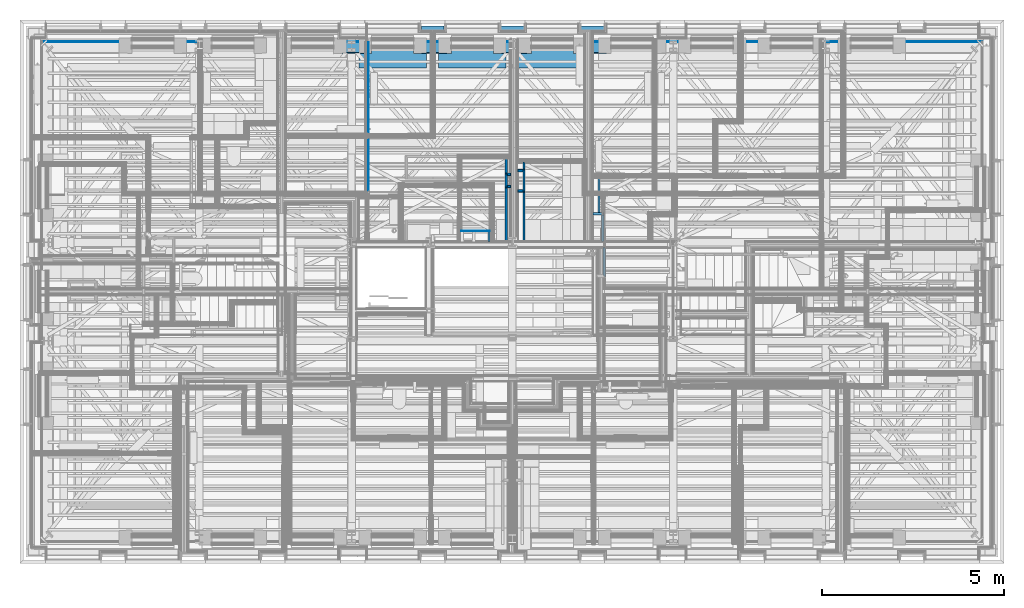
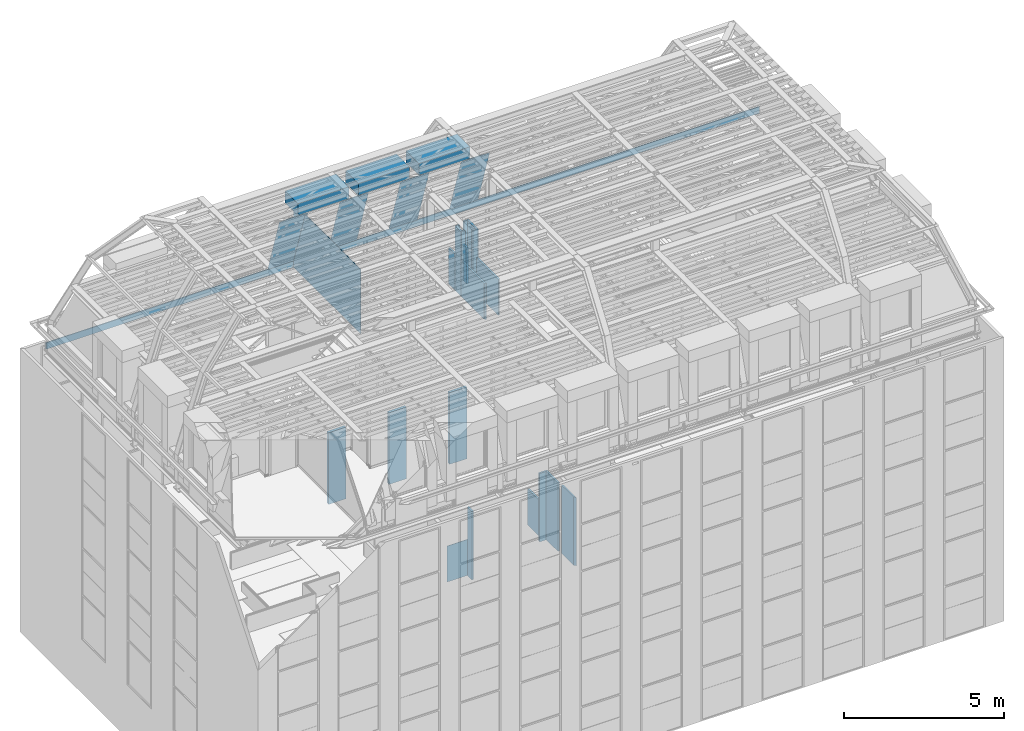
# One storey, part 17 of 183: 33 walls.
"""IFC2X3 building model written with IfcOpenShell, lengths in metres."""

from ifc_helpers import new_model, entity, si_unit, converted_unit, derived_unit, money_unit, direction, frame, frame_2d, origin_with_axes, place, context, subcontext, project, spatial, polyline, rectangle, outline, extrude, material, layer, layer_set, layer_usage, type_object, element, save


model = new_model("IFC2X3")

# Units and contexts
model_context = context("Model", 3, precision=1e-05, world=origin_with_axes(), true_north=direction((0.0, 1.0)))
body_context = subcontext(model_context, "Body", "Model", "MODEL_VIEW", scale=1.0)
ifc_project = project(units=[si_unit("LENGTHUNIT", "METRE"), si_unit("AREAUNIT", "SQUARE_METRE"), si_unit("VOLUMEUNIT", "CUBIC_METRE"), si_unit("ABSORBEDDOSEUNIT", "GRAY"), si_unit("AMOUNTOFSUBSTANCEUNIT", "MOLE"), si_unit("DOSEEQUIVALENTUNIT", "SIEVERT"), si_unit("ELECTRICCAPACITANCEUNIT", "FARAD"), si_unit("ELECTRICCHARGEUNIT", "COULOMB"), si_unit("ELECTRICCONDUCTANCEUNIT", "SIEMENS"), si_unit("ELECTRICCURRENTUNIT", "AMPERE"), si_unit("ELECTRICRESISTANCEUNIT", "OHM"), si_unit("ELECTRICVOLTAGEUNIT", "VOLT"), si_unit("ENERGYUNIT", "JOULE"), si_unit("FORCEUNIT", "NEWTON"), si_unit("FREQUENCYUNIT", "HERTZ"), si_unit("ILLUMINANCEUNIT", "LUX"), si_unit("INDUCTANCEUNIT", "HENRY"), si_unit("LUMINOUSFLUXUNIT", "LUMEN"), si_unit("LUMINOUSINTENSITYUNIT", "CANDELA"), si_unit("MAGNETICFLUXDENSITYUNIT", "TESLA"), si_unit("MAGNETICFLUXUNIT", "WEBER"), si_unit("MASSUNIT", "GRAM"), converted_unit("PLANEANGLEUNIT", "degree", entity("IfcReal", 0.0174532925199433), si_unit("PLANEANGLEUNIT", "RADIAN"), dimensions=[0, 0, 0, 0, 0, 0, 0]), si_unit("POWERUNIT", "WATT"), si_unit("PRESSUREUNIT", "PASCAL"), si_unit("RADIOACTIVITYUNIT", "BECQUEREL"), si_unit("SOLIDANGLEUNIT", "STERADIAN"), si_unit("THERMODYNAMICTEMPERATUREUNIT", "KELVIN"), si_unit("TIMEUNIT", "SECOND"), derived_unit("ACCELERATIONUNIT", [(si_unit("LENGTHUNIT", "METRE"), 1), (si_unit("TIMEUNIT", "SECOND"), -2)]), derived_unit("ANGULARVELOCITYUNIT", [(converted_unit("PLANEANGLEUNIT", "degree", entity("IfcReal", 0.0174532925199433), si_unit("PLANEANGLEUNIT", "RADIAN"), dimensions=[0, 0, 0, 0, 0, 0, 0]), 1), (si_unit("TIMEUNIT", "SECOND"), -1)]), derived_unit("CURVATUREUNIT", [(converted_unit("PLANEANGLEUNIT", "degree", entity("IfcReal", 0.0174532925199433), si_unit("PLANEANGLEUNIT", "RADIAN"), dimensions=[0, 0, 0, 0, 0, 0, 0]), 1), (si_unit("LENGTHUNIT", "METRE"), -1)]), derived_unit("DYNAMICVISCOSITYUNIT", [(si_unit("PRESSUREUNIT", "PASCAL"), 1), (si_unit("TIMEUNIT", "SECOND"), 1)]), derived_unit("HEATFLUXDENSITYUNIT", [(si_unit("POWERUNIT", "WATT"), 1), (si_unit("LENGTHUNIT", "METRE"), -2)]), derived_unit("HEATINGVALUEUNIT", [(si_unit("ENERGYUNIT", "JOULE"), 1), (si_unit("MASSUNIT", "GRAM"), -1)]), derived_unit("INTEGERCOUNTRATEUNIT", [(si_unit("TIMEUNIT", "SECOND"), -1)]), derived_unit("IONCONCENTRATIONUNIT", [(si_unit("MASSUNIT", "GRAM"), 1), (si_unit("VOLUMEUNIT", "CUBIC_METRE"), -1)]), derived_unit("ISOTHERMALMOISTURECAPACITYUNIT", [(si_unit("VOLUMEUNIT", "CUBIC_METRE"), 1), (si_unit("MASSUNIT", "GRAM"), -1)]), derived_unit("KINEMATICVISCOSITYUNIT", [(si_unit("AREAUNIT", "SQUARE_METRE"), 1), (si_unit("TIMEUNIT", "SECOND"), -1)]), derived_unit("LINEARFORCEUNIT", [(si_unit("FORCEUNIT", "NEWTON"), 1), (si_unit("LENGTHUNIT", "METRE"), -1)]), derived_unit("LINEARMOMENTUNIT", [(si_unit("FORCEUNIT", "NEWTON"), 1), (si_unit("LENGTHUNIT", "METRE"), -1)]), derived_unit("LINEARSTIFFNESSUNIT", [(si_unit("FORCEUNIT", "NEWTON"), 1), (si_unit("LENGTHUNIT", "METRE"), -1)]), derived_unit("LINEARVELOCITYUNIT", [(si_unit("LENGTHUNIT", "METRE"), 1), (si_unit("TIMEUNIT", "SECOND"), -1)]), derived_unit("LUMINOUSINTENSITYDISTRIBUTIONUNIT", [(si_unit("LUMINOUSINTENSITYUNIT", "CANDELA"), 1), (si_unit("LUMINOUSFLUXUNIT", "LUMEN"), -1)]), derived_unit("MASSDENSITYUNIT", [(si_unit("MASSUNIT", "GRAM"), 1), (si_unit("VOLUMEUNIT", "CUBIC_METRE"), -1)]), derived_unit("MASSFLOWRATEUNIT", [(si_unit("MASSUNIT", "GRAM"), 1), (si_unit("TIMEUNIT", "SECOND"), -1)]), derived_unit("MASSPERLENGTHUNIT", [(si_unit("MASSUNIT", "GRAM"), 1), (si_unit("LENGTHUNIT", "METRE"), -1)]), derived_unit("MODULUSOFELASTICITYUNIT", [(si_unit("FORCEUNIT", "NEWTON"), 1), (si_unit("AREAUNIT", "SQUARE_METRE"), -1)]), derived_unit("MODULUSOFLINEARSUBGRADEREACTIONUNIT", [(si_unit("FORCEUNIT", "NEWTON"), 1), (si_unit("LENGTHUNIT", "METRE"), -2)]), derived_unit("MODULUSOFROTATIONALSUBGRADEREACTIONUNIT", [(si_unit("FORCEUNIT", "NEWTON"), 1), (si_unit("LENGTHUNIT", "METRE"), 1)]), derived_unit("MODULUSOFSUBGRADEREACTIONUNIT", [(si_unit("FORCEUNIT", "NEWTON"), 1), (si_unit("VOLUMEUNIT", "CUBIC_METRE"), -1)]), derived_unit("MOISTUREDIFFUSIVITYUNIT", [(si_unit("VOLUMEUNIT", "CUBIC_METRE"), 1), (si_unit("TIMEUNIT", "SECOND"), -1)]), derived_unit("MOLECULARWEIGHTUNIT", [(si_unit("MASSUNIT", "GRAM"), 1), (si_unit("AMOUNTOFSUBSTANCEUNIT", "MOLE"), -1)]), derived_unit("PLANARFORCEUNIT", [(si_unit("FORCEUNIT", "NEWTON"), 1), (si_unit("LENGTHUNIT", "METRE"), -2)]), derived_unit("ROTATIONALFREQUENCYUNIT", [(si_unit("TIMEUNIT", "SECOND"), -1)]), derived_unit("ROTATIONALMASSUNIT", [(si_unit("MASSUNIT", "GRAM"), 1), (si_unit("LENGTHUNIT", "METRE"), 2)]), derived_unit("ROTATIONALSTIFFNESSUNIT", [(si_unit("FORCEUNIT", "NEWTON"), 1), (si_unit("LENGTHUNIT", "METRE"), 1), (converted_unit("PLANEANGLEUNIT", "degree", entity("IfcReal", 0.0174532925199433), si_unit("PLANEANGLEUNIT", "RADIAN"), dimensions=[0, 0, 0, 0, 0, 0, 0]), -1)]), derived_unit("SECTIONAREAINTEGRALUNIT", [(si_unit("LENGTHUNIT", "METRE"), 5)]), derived_unit("SECTIONMODULUSUNIT", [(si_unit("LENGTHUNIT", "METRE"), 3)]), derived_unit("SHEARMODULUSUNIT", [(si_unit("FORCEUNIT", "NEWTON"), 1), (si_unit("AREAUNIT", "SQUARE_METRE"), -1)]), derived_unit("SOUNDPOWERUNIT", [(si_unit("ENERGYUNIT", "JOULE"), 1), (si_unit("TIMEUNIT", "SECOND"), -1)]), derived_unit("SPECIFICHEATCAPACITYUNIT", [(si_unit("FORCEUNIT", "NEWTON"), 1), (si_unit("MASSUNIT", "GRAM"), -1), (si_unit("THERMODYNAMICTEMPERATUREUNIT", "KELVIN"), -1)]), derived_unit("TEMPERATUREGRADIENTUNIT", [(si_unit("THERMODYNAMICTEMPERATUREUNIT", "KELVIN"), 1), (si_unit("LENGTHUNIT", "METRE"), -1)]), derived_unit("THERMALADMITTANCEUNIT", [(si_unit("POWERUNIT", "WATT"), 1), (si_unit("AREAUNIT", "SQUARE_METRE"), -1), (si_unit("THERMODYNAMICTEMPERATUREUNIT", "KELVIN"), -1)]), derived_unit("THERMALCONDUCTANCEUNIT", [(si_unit("POWERUNIT", "WATT"), 1), (si_unit("LENGTHUNIT", "METRE"), -1), (si_unit("THERMODYNAMICTEMPERATUREUNIT", "KELVIN"), -1)]), derived_unit("THERMALEXPANSIONCOEFFICIENTUNIT", [(si_unit("THERMODYNAMICTEMPERATUREUNIT", "KELVIN"), -1)]), derived_unit("THERMALRESISTANCEUNIT", [(si_unit("AREAUNIT", "SQUARE_METRE"), 1), (si_unit("POWERUNIT", "WATT"), -1)]), derived_unit("THERMALTRANSMITTANCEUNIT", [(si_unit("POWERUNIT", "WATT"), 1), (si_unit("AREAUNIT", "SQUARE_METRE"), -1), (si_unit("THERMODYNAMICTEMPERATUREUNIT", "KELVIN"), -1)]), derived_unit("TORQUEUNIT", [(si_unit("FORCEUNIT", "NEWTON"), 1), (si_unit("LENGTHUNIT", "METRE"), 1)]), derived_unit("VAPORPERMEABILITYUNIT", [(si_unit("MASSUNIT", "GRAM"), 1), (si_unit("TIMEUNIT", "SECOND"), -1)]), derived_unit("VOLUMETRICFLOWRATEUNIT", [(si_unit("VOLUMEUNIT", "CUBIC_METRE"), 1), (si_unit("TIMEUNIT", "SECOND"), -1)]), derived_unit("WARPINGCONSTANTUNIT", [(si_unit("LENGTHUNIT", "METRE"), 6)]), derived_unit("WARPINGMOMENTUNIT", [(si_unit("FORCEUNIT", "NEWTON"), 1), (si_unit("LENGTHUNIT", "METRE"), 2)]), money_unit("GBP")], contexts=[model_context])

# Site, building, storey
site_placement = place(None, origin_with_axes())
site = spatial("IfcSite", under=ifc_project, at=site_placement, Name="Site", CompositionType="ELEMENT")
building_placement = place(site_placement, origin_with_axes())
building = spatial("IfcBuilding", under=site, at=building_placement, Name="Building01", CompositionType="ELEMENT")
storey_placement = place(building_placement, frame((0.0, 0.0, 5.15), z_axis=(0.0, 0.0, 1.0), x_axis=(1.0, 0.0, 0.0)))
storey = spatial("IfcBuildingStorey", under=building, at=storey_placement, Name="1F", CompositionType="ELEMENT", Elevation=5.15)

# Walls
ifc_material_1 = material(Name="A_BSUK_WallsExternal_Block")
ifc_layer_1 = layer(ifc_material_1, 0.1, ventilated=False)
ifc_layer_set_1 = layer_set([ifc_layer_1])
ifc_layer_usage_1 = layer_usage(ifc_layer_set_1, "AXIS2", "POSITIVE", 0.0)
wall_type_1 = type_object("IfcWallType", Name="A-Walls-ExternalBlock", PredefinedType="NOTDEFINED")
for number, where, z_axis, x_axis, name in (
    (1, (11.003, 14.63, 0.0), (0.0, 0.0, 1.0), (1.0, 0.0, 0.0), "A-Walls-ExternalBlock"),
    (2, (13.193, 14.63, 0.0), (0.0, 0.0, 1.0), (1.0, 0.0, 0.0), "A-Walls-ExternalBlock"),
):
    element("IfcWallStandardCase", number, at=place(storey_placement, frame(where, z_axis=z_axis, x_axis=x_axis)), inside=storey, type_object=wall_type_1, material=ifc_layer_usage_1, Name=name, ObjectType="A-Walls-ExternalBlock", context=body_context, shape_type="SweptSolid", body=[
        extrude(rectangle(XDim=0.624, YDim=0.1, at=frame_2d((0.312, 0.05), x_axis=(-1.0, 0.0))), origin_with_axes(), (0.0, 0.0, 1.0), 2.74),
    ])
wall_1_placement = place(storey_placement, frame((15.383, 14.63, 0.0), z_axis=(0.0, 0.0, 1.0), x_axis=(1.0, 0.0, 0.0)))
element("IfcWallStandardCase", 3, at=wall_1_placement, inside=storey, type_object=wall_type_1, material=ifc_layer_usage_1, Name="A-Walls-ExternalBlock", ObjectType="A-Walls-ExternalBlock", context=body_context, shape_type="SweptSolid", body=[
    extrude(rectangle(XDim=0.624, YDim=0.1, at=frame_2d((0.312, 0.05), x_axis=(1.0, 0.0))), origin_with_axes(), (0.0, 0.0, 1.0), 2.74),
])
ifc_material_2 = material(Name="A_BSUK_WallsInternal")
ifc_layer_2 = layer(ifc_material_2, 0.015, ventilated=False)
ifc_layer_set_2 = layer_set([ifc_layer_2])
ifc_layer_usage_2 = layer_usage(ifc_layer_set_2, "AXIS2", "POSITIVE", 0.0)
wall_type_2 = type_object("IfcWallType", Name="A-Walls-Internal", PredefinedType="NOTDEFINED")
wall_2_placement = place(storey_placement, frame((0.5938, 14.3212, 9.78), z_axis=(0.0, 0.0, 1.0), x_axis=(1.0, 0.0, 0.0)))
element("IfcWallStandardCase", 4, at=wall_2_placement, inside=storey, type_object=wall_type_2, material=ifc_layer_usage_2, Name="7C", ObjectType="A-Walls-Internal", context=body_context, shape_type="SweptSolid", body=[
    extrude(rectangle(XDim=25.8074, YDim=0.015, at=frame_2d((12.9037, -0.0075), x_axis=(-1.0, 0.0))), origin_with_axes(), (0.0, 0.0, 1.0), 0.25),
])
wall_3_placement = place(storey_placement, frame((0.6088, 14.3062, 9.78), z_axis=(0.0, 0.0, 1.0), x_axis=(1.0, 0.0, 0.0)))
element("IfcWallStandardCase", 5, at=wall_3_placement, inside=storey, type_object=wall_type_2, material=ifc_layer_usage_2, Name="7C", ObjectType="A-Walls-Internal", context=body_context, shape_type="SweptSolid", body=[
    extrude(rectangle(XDim=25.7774, YDim=0.015, at=frame_2d((12.8887, -0.0075), x_axis=(-1.0, 0.0))), origin_with_axes(), (0.0, 0.0, 1.0), 0.25),
])
ifc_material_3 = material(Name="A_BSUK_Walls_Timber")
ifc_layer_3 = layer(ifc_material_3, 0.015, ventilated=False)
ifc_material_4 = material(Name="A_BSUK_OpeningsClearance")
ifc_layer_4 = layer(ifc_material_4, 0.05, ventilated=False)
ifc_layer_set_3 = layer_set([ifc_layer_3, ifc_layer_4])
ifc_layer_usage_3 = layer_usage(ifc_layer_set_3, "AXIS2", "POSITIVE", 0.0)
wall_type_3 = type_object("IfcWallType", Name="SHE_A-Walls_Type05c_PreWallShell_65mm", PredefinedType="NOTDEFINED")
wall_4_placement = place(storey_placement, frame((15.985, 7.915, 0.0), z_axis=(0.0, 0.0, 1.0), x_axis=(0.0, 1.0, 0.0)))
element("IfcWallStandardCase", 6, at=wall_4_placement, inside=storey, type_object=wall_type_3, material=ifc_layer_usage_3, Name="5C", ObjectType="SHE_A-Walls_Type05c_PreWallShell_65mm", context=body_context, shape_type="SweptSolid", body=[
    extrude(outline(polyline([(0.72, -0.05), (0.75, -0.05), (0.75, 0.0), (0.0, 0.0), (-0.065, -0.065), (0.72, -0.065), (0.72, -0.05)])), origin_with_axes(), (0.0, 0.0, 1.0), 2.615),
])
wall_5_placement = place(storey_placement, frame((12.828585, 8.82, 0.0), z_axis=(0.0, 0.0, 1.0), x_axis=(0.0, 1.0, 0.0)))
element("IfcWallStandardCase", 7, at=wall_5_placement, inside=storey, type_object=wall_type_3, material=ifc_layer_usage_3, Name="5C", ObjectType="SHE_A-Walls_Type05c_PreWallShell_65mm", context=body_context, shape_type="SweptSolid", body=[
    extrude(outline(polyline([(0.285, -0.05), (0.285, 0.0), (0.0, 0.0), (0.0, -0.065), (0.3, -0.065), (0.3, -0.05), (0.285, -0.05)])), origin_with_axes(), (0.0, 0.0, 1.0), 2.615),
])
ifc_layer_set_4 = layer_set([ifc_layer_4, ifc_layer_3])
ifc_layer_usage_4 = layer_usage(ifc_layer_set_4, "AXIS2", "POSITIVE", 0.0)
wall_6_placement = place(storey_placement, frame((15.943132, 9.555, 0.0), z_axis=(0.0, 0.0, 1.0), x_axis=(0.0, -1.0, 0.0)))
element("IfcWallStandardCase", 8, at=wall_6_placement, inside=storey, type_object=wall_type_3, material=ifc_layer_usage_4, Name="5C", ObjectType="SHE_A-Walls_Type05c_PreWallShell_65mm", context=body_context, shape_type="SweptSolid", body=[
    extrude(outline(polyline([(0.72, 0.05), (0.72, 0.065), (-0.065, 0.065), (-0.065, 0.05), (0.0, 0.05), (0.0, 0.0), (0.735, 0.0), (0.735, 0.05), (0.72, 0.05)])), origin_with_axes(), (0.0, 0.0, 1.0), 2.615),
])
wall_7_placement = place(storey_placement, frame((15.708132, 9.555, 0.0), z_axis=(0.0, 0.0, 1.0), x_axis=(1.0, 0.0, 0.0)))
element("IfcWallStandardCase", 9, at=wall_7_placement, inside=storey, type_object=wall_type_3, material=ifc_layer_usage_4, Name="5C", ObjectType="SHE_A-Walls_Type05c_PreWallShell_65mm", context=body_context, shape_type="SweptSolid", body=[
    extrude(rectangle(XDim=0.285, YDim=0.065, at=frame_2d((0.1425, 0.0325), x_axis=(-1.0, 0.0))), origin_with_axes(), (0.0, 0.0, 1.0), 2.615),
])
wall_8_placement = place(storey_placement, frame((15.843132, 9.605, 0.0), z_axis=(0.0, 0.0, 1.0), x_axis=(0.0, 1.0, 0.0)))
element("IfcWallStandardCase", 10, at=wall_8_placement, inside=storey, type_object=wall_type_3, material=ifc_layer_usage_3, Name="5C", ObjectType="SHE_A-Walls_Type05c_PreWallShell_65mm", context=body_context, shape_type="SweptSolid", body=[
    extrude(outline(polyline([(0.95, -0.05), (0.965, -0.05), (0.965, 0.0), (0.0, 0.0), (0.0, -0.05), (-0.05, -0.05), (-0.05, -0.065), (0.95, -0.065), (0.95, -0.05)])), origin_with_axes(), (0.0, 0.0, 1.0), 1.375),
])
wall_9_placement = place(storey_placement, frame((13.362381, 10.683806, 9.78), z_axis=(0.0, 0.0, 1.0), x_axis=(0.0, -1.0, 0.0)))
element("IfcWallStandardCase", 11, at=wall_9_placement, inside=storey, type_object=wall_type_3, material=ifc_layer_usage_3, Name="5C", ObjectType="SHE_A-Walls_Type05c_PreWallShell_65mm", context=body_context, shape_type="SweptSolid", body=[
    extrude(outline(polyline([(0.364957, -0.05), (0.364957, 0.0), (0.0, 0.0), (0.0, -0.05), (-0.015, -0.05), (-0.015, -0.065), (0.379957, -0.065), (0.379957, -0.05), (0.364957, -0.05)])), origin_with_axes(), (0.0, 0.0, 1.0), 2.468),
])
wall_10_placement = place(storey_placement, frame((13.45, 10.368849, 9.78), z_axis=(0.0, 0.0, 1.0), x_axis=(-1.0, 0.0, 0.0)))
element("IfcWallStandardCase", 12, at=wall_10_placement, inside=storey, type_object=wall_type_3, material=ifc_layer_usage_4, Name="5C", ObjectType="SHE_A-Walls_Type05c_PreWallShell_65mm", context=body_context, shape_type="SweptSolid", body=[
    extrude(outline(polyline([(0.087619, 0.05), (0.137619, 0.05), (0.137619, 0.065), (0.0, 0.065), (0.0, 0.0), (0.087619, 0.0), (0.087619, 0.05)])), origin_with_axes(), (0.0, 0.0, 1.0), 2.468),
])
wall_11_placement = place(storey_placement, frame((13.45, 10.633806, 9.78), z_axis=(0.0, 0.0, 1.0), x_axis=(-1.0, 0.0, 0.0)))
element("IfcWallStandardCase", 13, at=wall_11_placement, inside=storey, type_object=wall_type_3, material=ifc_layer_usage_3, Name="5C", ObjectType="SHE_A-Walls_Type05c_PreWallShell_65mm", context=body_context, shape_type="SweptSolid", body=[
    extrude(outline(polyline([(0.08763, -0.05), (0.08763, 0.0), (0.0, 0.0), (0.0, -0.065), (0.137619, -0.065), (0.137619, -0.05), (0.08763, -0.05)])), origin_with_axes(), (0.0, 0.0, 1.0), 2.468),
])
wall_12_placement = place(storey_placement, frame((13.36237, 10.633806, 9.78), z_axis=(0.0, 0.0, 1.0), x_axis=(0.0, 1.0, 0.0)))
element("IfcWallStandardCase", 14, at=wall_12_placement, inside=storey, type_object=wall_type_3, material=ifc_layer_usage_4, Name="5C", ObjectType="SHE_A-Walls_Type05c_PreWallShell_65mm", context=body_context, shape_type="SweptSolid", body=[
    extrude(outline(polyline([(0.470043, 0.065), (0.065, 0.065), (0.065, 0.05), (0.0, 0.05), (0.0, 0.0), (0.470043, 0.0), (0.470043, 0.065)])), origin_with_axes(), (0.0, 0.0, 1.0), 1.375),
])
wall_13_placement = place(storey_placement, frame((13.784998, 10.788883, 9.78), z_axis=(0.0, 0.0, 1.0), x_axis=(0.0, -1.0, 0.0)))
element("IfcWallStandardCase", 15, at=wall_13_placement, inside=storey, type_object=wall_type_3, material=ifc_layer_usage_4, Name="5C", ObjectType="SHE_A-Walls_Type05c_PreWallShell_65mm", context=body_context, shape_type="SweptSolid", body=[
    extrude(outline(polyline([(0.590094, 0.05), (0.605094, 0.05), (0.605094, 0.065), (-0.015, 0.065), (-0.015, 0.05), (0.0, 0.05), (0.0, 0.0), (0.590094, 0.0), (0.590094, 0.05)])), origin_with_axes(), (0.0, 0.0, 1.0), 2.468),
])
wall_14_placement = place(storey_placement, frame((13.65, 10.738883, 9.78), z_axis=(0.0, 0.0, 1.0), x_axis=(1.0, 0.0, 0.0)))
element("IfcWallStandardCase", 16, at=wall_14_placement, inside=storey, type_object=wall_type_3, material=ifc_layer_usage_4, Name="5C", ObjectType="SHE_A-Walls_Type05c_PreWallShell_65mm", context=body_context, shape_type="SweptSolid", body=[
    extrude(outline(polyline([(0.134998, 0.05), (0.184998, 0.05), (0.184998, 0.065), (0.0, 0.065), (0.0, 0.0), (0.134998, 0.0), (0.134998, 0.05)])), origin_with_axes(), (0.0, 0.0, 1.0), 2.468),
])
wall_15_placement = place(storey_placement, frame((13.65, 10.248789, 9.78), z_axis=(0.0, 0.0, 1.0), x_axis=(1.0, 0.0, 0.0)))
element("IfcWallStandardCase", 17, at=wall_15_placement, inside=storey, type_object=wall_type_3, material=ifc_layer_usage_3, Name="5C", ObjectType="SHE_A-Walls_Type05c_PreWallShell_65mm", context=body_context, shape_type="SweptSolid", body=[
    extrude(outline(polyline([(0.134998, -0.05), (0.134998, 0.0), (0.0, 0.0), (0.0, -0.065), (0.184998, -0.065), (0.184998, -0.05), (0.134998, -0.05)])), origin_with_axes(), (0.0, 0.0, 1.0), 2.468),
])
wall_16_placement = place(storey_placement, frame((13.784998, 10.803883, 9.78), z_axis=(0.0, 0.0, 1.0), x_axis=(0.0, 1.0, 0.0)))
element("IfcWallStandardCase", 18, at=wall_16_placement, inside=storey, type_object=wall_type_3, material=ifc_layer_usage_3, Name="5C", ObjectType="SHE_A-Walls_Type05c_PreWallShell_65mm", context=body_context, shape_type="SweptSolid", body=[
    extrude(outline(polyline([(0.179906, -0.05), (0.207906, -0.05), (0.207906, 0.0), (0.0, 0.0), (0.0, -0.065), (0.179906, -0.065), (0.179906, -0.05)])), origin_with_axes(), (0.0, 0.0, 1.0), 1.375),
])
wall_17_placement = place(storey_placement, frame((13.362381, 8.82, 9.78), z_axis=(0.0, 0.0, 1.0), x_axis=(0.0, 1.0, 0.0)))
element("IfcWallStandardCase", 19, at=wall_17_placement, inside=storey, type_object=wall_type_3, material=ifc_layer_usage_4, Name="5C", ObjectType="SHE_A-Walls_Type05c_PreWallShell_65mm", context=body_context, shape_type="SweptSolid", body=[
    extrude(outline(polyline([(1.483849, 0.05), (1.483849, 0.065), (0.040801, 0.065), (0.040801, 0.05), (0.0, 0.05), (0.0, 0.0), (1.583849, 0.0), (1.583849, 0.05), (1.483849, 0.05)])), origin_with_axes(), (0.0, 0.0, 1.0), 1.375),
])
wall_18_placement = place(storey_placement, frame((13.784998, 8.82, 9.78), z_axis=(0.0, 0.0, 1.0), x_axis=(0.0, 1.0, 0.0)))
element("IfcWallStandardCase", 20, at=wall_18_placement, inside=storey, type_object=wall_type_3, material=ifc_layer_usage_3, Name="5C", ObjectType="SHE_A-Walls_Type05c_PreWallShell_65mm", context=body_context, shape_type="SweptSolid", body=[
    extrude(outline(polyline([(1.363789, 0.0), (0.0, 0.0), (0.0, -0.05), (0.029402, -0.05), (0.029402, -0.065), (1.363789, -0.065), (1.363789, 0.0)])), origin_with_axes(), (0.0, 0.0, 1.0), 1.375),
])
ifc_material_5 = material(Name="A_BSUK_Roofs")
wall_type_4 = type_object("IfcWallType", Name="A-Walls-ExternalBlock", PredefinedType="NOTDEFINED")
for number, where, z_axis, x_axis, name in (
    (21, (9.290049, 13.590035, 12.729998), (1.0, 0.0, 0.0), (0.0, -1.0, 0.0), "7C"),
    (22, (11.480049, 13.590035, 12.729998), (1.0, 0.0, 0.0), (0.0, -1.0, 0.0), "7C"),
    (23, (13.670024, 13.590035, 12.729998), (1.0, 0.0, 0.0), (0.0, -1.0, 0.0), "7C"),
):
    element("IfcWall", number, at=place(storey_placement, frame(where, z_axis=z_axis, x_axis=x_axis)), inside=storey, type_object=wall_type_4, material=ifc_material_5, Name=name, ObjectType="A-Walls-ExternalBlock", context=body_context, shape_type="SweptSolid", body=[
        extrude(rectangle(XDim=0.81, YDim=0.45, at=frame_2d((-0.405, 0.225), x_axis=(-1.0, 0.0))), origin_with_axes(), (0.0, 0.0, 1.0), 1.849951),
    ])
ifc_layer_set_5 = layer_set([ifc_layer_3])
ifc_layer_usage_5 = layer_usage(ifc_layer_set_5, "AXIS2", "POSITIVE", 0.0)
wall_type_5 = type_object("IfcWallType", Name="default", PredefinedType="NOTDEFINED")
wall_19_placement = place(storey_placement, frame((12.103871, 9.105, 0.0), z_axis=(0.0, 0.0, 1.0), x_axis=(1.0, 0.0, 0.0)))
element("IfcWallStandardCase", 24, at=wall_19_placement, inside=storey, type_object=wall_type_5, material=ifc_layer_usage_5, Name="default", ObjectType="default", context=body_context, shape_type="SweptSolid", body=[
    extrude(rectangle(XDim=0.774714, YDim=0.015, at=frame_2d((0.387357, 0.0075), x_axis=(-1.0, 0.0))), origin_with_axes(), (0.0, 0.0, 1.0), 1.375),
])
ifc_material_6 = material(Name="A_BSUK_WallInternal_Finishes_Plasterboard")
ifc_layer_5 = layer(ifc_material_6, 0.015, ventilated=False)
ifc_layer_set_6 = layer_set([ifc_layer_5])
ifc_layer_usage_6 = layer_usage(ifc_layer_set_6, "AXIS2", "POSITIVE", 0.0)
wall_20_placement = place(storey_placement, frame((9.545024, 10.114939, 9.78), z_axis=(0.0, 0.0, 1.0), x_axis=(0.0, 1.0, 0.0)))
element("IfcWallStandardCase", 25, at=wall_20_placement, inside=storey, type_object=wall_type_5, material=ifc_layer_usage_6, Name="default", ObjectType="default", context=body_context, shape_type="SweptSolid", body=[
    extrude(outline(polyline([(4.181261, 0.0), (0.0, 0.0), (-0.015, -0.015), (4.181261, -0.015), (4.181261, 0.0)])), origin_with_axes(), (0.0, 0.0, 1.0), 2.468),
])
wall_type_6 = type_object("IfcWallType", Name="A-Walls-Internal", PredefinedType="NOTDEFINED")
for number, where, z_axis, x_axis, name in (
    (26, (8.849976, 14.3212, 10.03), (0.0, -0.30901699, 0.95105652), (1.0, 0.0, 0.0), "7C"),
    (27, (11.039976, 14.3212, 10.03), (0.0, -0.30901699, 0.95105652), (1.0, 0.0, 0.0), "7C"),
    (28, (13.229976, 14.3212, 10.03), (0.0, -0.30901699, 0.95105652), (1.0, 0.0, 0.0), "7C"),
    (29, (15.419976, 14.3212, 10.03), (0.0, -0.30901699, 0.95105652), (1.0, 0.0, 0.0), "7C"),
):
    element("IfcWall", number, at=place(storey_placement, frame(where, z_axis=z_axis, x_axis=x_axis)), inside=storey, type_object=wall_type_6, material=ifc_material_2, Name=name, ObjectType="A-Walls-Internal", context=body_context, shape_type="SweptSolid", body=[
        extrude(rectangle(XDim=0.540049, YDim=0.015, at=frame_2d((0.270024, -0.0075), x_axis=(-1.0, 0.0))), origin_with_axes(), (0.0, 0.0, 1.0), 2.373987),
    ])
for number, where, z_axis, x_axis, name in (
    (30, (8.849976, 14.305572, 10.029557), (0.0, -0.30901699, 0.95105652), (1.0, 0.0, 0.0), "7C"),
    (31, (11.039976, 14.305572, 10.029557), (0.0, -0.30901699, 0.95105652), (1.0, 0.0, 0.0), "7C"),
    (32, (13.229976, 14.305572, 10.029557), (0.0, -0.30901699, 0.95105652), (1.0, 0.0, 0.0), "7C"),
    (33, (15.419976, 14.305572, 10.029557), (0.0, -0.30901699, 0.95105652), (1.0, 0.0, 0.0), "7C"),
):
    element("IfcWall", number, at=place(storey_placement, frame(where, z_axis=z_axis, x_axis=x_axis)), inside=storey, type_object=wall_type_6, material=ifc_material_2, Name=name, ObjectType="A-Walls-Internal", context=body_context, shape_type="SweptSolid", body=[
        extrude(outline(polyline([(0.540049, 0.0), (0.0, 0.0), (-0.25, -0.015), (0.790049, -0.015), (0.540049, 0.0)])), origin_with_axes(), (0.0, 0.0, 1.0), 2.373987),
    ])

save(model, "model.ifc")
